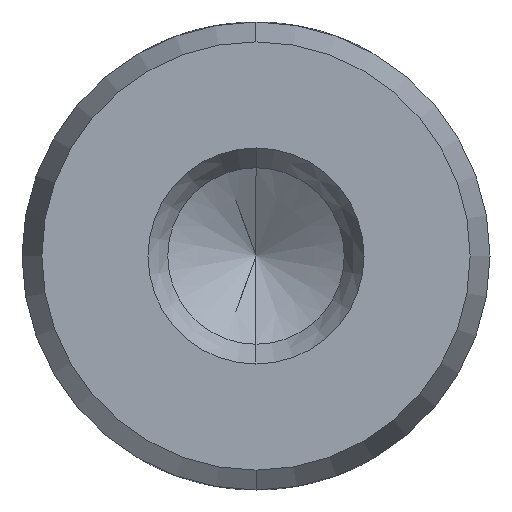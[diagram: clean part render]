
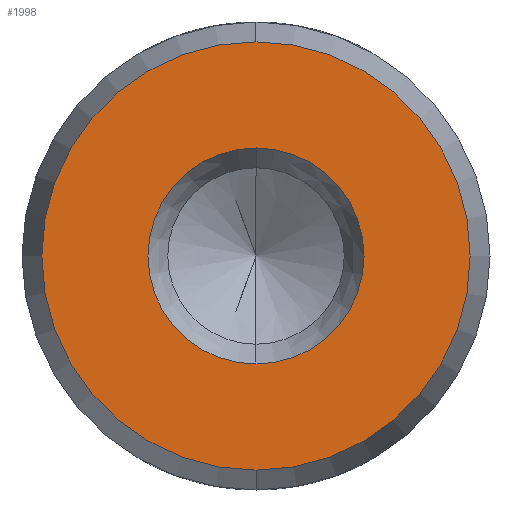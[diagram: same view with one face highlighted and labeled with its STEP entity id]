
A CAD part, front view. The second image highlights one B-rep face of the part: STEP entity #1998.
In plain terms, the highlighted planar face has unit normal (0, -1, 0).
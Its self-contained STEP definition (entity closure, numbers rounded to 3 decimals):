
#52 = DIRECTION ( 'NONE',  ( 0., 0., 1. ) ) ;
#100 = CARTESIAN_POINT ( 'NONE',  ( -0.685, -12.408, -1.221 ) ) ;
#137 = ORIENTED_EDGE ( 'NONE', *, *, #3040, .T. ) ;
#168 = ORIENTED_EDGE ( 'NONE', *, *, #4283, .F. ) ;
#169 = EDGE_CURVE ( 'NONE', #430, #320, #4605, .T. ) ;
#253 = DIRECTION ( 'NONE',  ( 0., 0., 1. ) ) ;
#320 = VERTEX_POINT ( 'NONE', #1950 ) ;
#430 = VERTEX_POINT ( 'NONE', #2639 ) ;
#552 = EDGE_LOOP ( 'NONE', ( #137, #4600 ) ) ;
#645 = DIRECTION ( 'NONE',  ( 0., 1., 0. ) ) ;
#809 = CIRCLE ( 'NONE', #3847, 1.384 ) ;
#1548 = CARTESIAN_POINT ( 'NONE',  ( -0.685, -12.408, 0.163 ) ) ;
#1619 = VERTEX_POINT ( 'NONE', #100 ) ;
#1639 = CARTESIAN_POINT ( 'NONE',  ( -0.685, -12.408, 1.547 ) ) ;
#1693 = AXIS2_PLACEMENT_3D ( 'NONE', #1548, #3001, #1920 ) ;
#1818 = DIRECTION ( 'NONE',  ( 0., 1., 0. ) ) ;
#1920 = DIRECTION ( 'NONE',  ( 0., 0., 1. ) ) ;
#1950 = CARTESIAN_POINT ( 'NONE',  ( -0.685, -12.408, 2.906 ) ) ;
#1960 = VERTEX_POINT ( 'NONE', #1639 ) ;
#1998 = ADVANCED_FACE ( 'NONE', ( #4114, #2853 ), #3097, .F. ) ;
#2121 = EDGE_CURVE ( 'NONE', #1960, #1619, #809, .T. ) ;
#2185 = DIRECTION ( 'NONE',  ( 0., 1., 0. ) ) ;
#2384 = DIRECTION ( 'NONE',  ( 0., 1., 0. ) ) ;
#2639 = CARTESIAN_POINT ( 'NONE',  ( -0.685, -12.408, -2.58 ) ) ;
#2777 = CARTESIAN_POINT ( 'NONE',  ( -0.685, -12.408, 0.163 ) ) ;
#2826 = EDGE_LOOP ( 'NONE', ( #168, #4516 ) ) ;
#2837 = AXIS2_PLACEMENT_3D ( 'NONE', #4503, #2384, #253 ) ;
#2853 = FACE_OUTER_BOUND ( 'NONE', #2826, .T. ) ;
#3001 = DIRECTION ( 'NONE',  ( 0., 1., 0. ) ) ;
#3040 = EDGE_CURVE ( 'NONE', #1619, #1960, #3125, .T. ) ;
#3097 = PLANE ( 'NONE',  #2837 ) ;
#3125 = CIRCLE ( 'NONE', #4135, 1.384 ) ;
#3141 = DIRECTION ( 'NONE',  ( 0., 0., 1. ) ) ;
#3506 = AXIS2_PLACEMENT_3D ( 'NONE', #3955, #1818, #4302 ) ;
#3725 = CIRCLE ( 'NONE', #3506, 2.743 ) ;
#3847 = AXIS2_PLACEMENT_3D ( 'NONE', #4307, #2185, #52 ) ;
#3955 = CARTESIAN_POINT ( 'NONE',  ( -0.685, -12.408, 0.163 ) ) ;
#4114 = FACE_BOUND ( 'NONE', #552, .T. ) ;
#4135 = AXIS2_PLACEMENT_3D ( 'NONE', #2777, #645, #3141 ) ;
#4283 = EDGE_CURVE ( 'NONE', #320, #430, #3725, .T. ) ;
#4302 = DIRECTION ( 'NONE',  ( 0., 0., 1. ) ) ;
#4307 = CARTESIAN_POINT ( 'NONE',  ( -0.685, -12.408, 0.163 ) ) ;
#4503 = CARTESIAN_POINT ( 'NONE',  ( 2.058, -12.408, 0.163 ) ) ;
#4516 = ORIENTED_EDGE ( 'NONE', *, *, #169, .F. ) ;
#4600 = ORIENTED_EDGE ( 'NONE', *, *, #2121, .T. ) ;
#4605 = CIRCLE ( 'NONE', #1693, 2.743 ) ;
